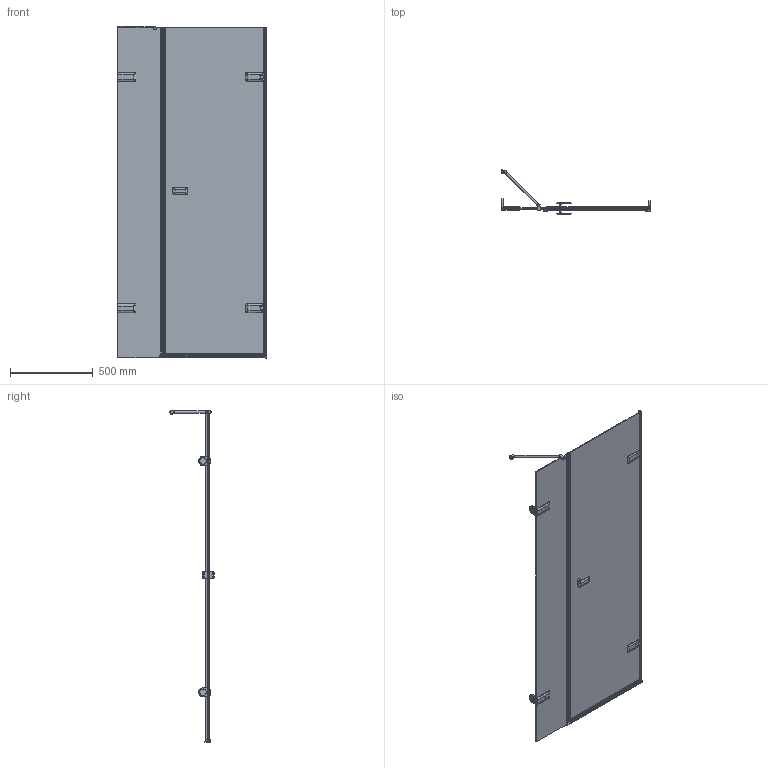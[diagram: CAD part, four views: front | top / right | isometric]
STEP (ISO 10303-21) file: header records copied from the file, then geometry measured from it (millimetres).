
FILE_DESCRIPTION(/* description */ (''),/* implementation_level */ '2;1');
FILE_NAME(/* name */ 'D:\1\TREND DOOR GK-862BTWO\TREND DOOR GK-862BTWO правая модель\TREND DOOR GK-862BTWO ПРАВАЯ-3D.stp',/* time_stamp */ '2017-08-28T14:17:42+03:00',/* author */ ('ChechurovS'),/* organization */ (''),/* preprocessor_version */ 'ST-DEVELOPER v15.2',/* originating_system */ 'Autodesk Inventor 2014',/* authorisation */ '');
FILE_SCHEMA (('CONFIG_CONTROL_DESIGN'));
Length unit declared in the file: millimetre
Products named in the file (1): TREND DOOR GK-862BTWO ПРАВАЯ-
3D
Bounding box: 901 x 268.74 x 2009.49 mm (x, y, z)
Volume: 11618520.2 mm3; surface area: 4027727.6 mm2
Topology: 5 solids, 14 shells, 940 faces, 2414 edges, 1467 vertices
Faces by surface type: plane 566, cylinder 252, bspline 68, torus 36, sphere 10, cone 8
Full cylindrical faces by diameter (mm): 4.917 x4, 12 x2, 15 x1, 20 x2, 26 x1, 28 x2, 28.5 x2, 40 x2
Entity records: 33308 total; most frequent: CARTESIAN_POINT 9982, ORIENTED_EDGE 4664, DIRECTION 4519, EDGE_CURVE 2330, LINE 1601, VECTOR 1601, AXIS2_PLACEMENT_3D 1459, VERTEX_POINT 1453
